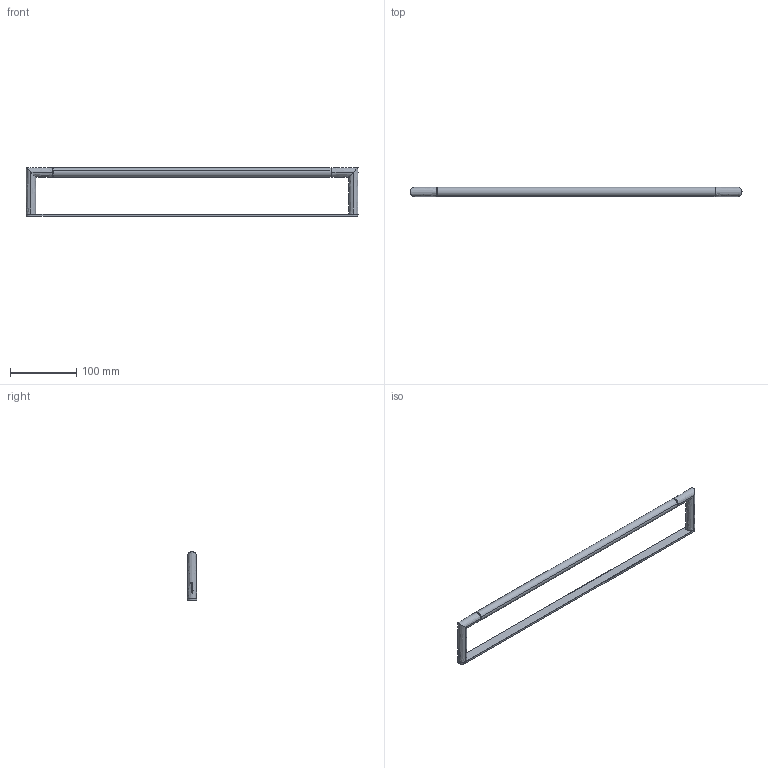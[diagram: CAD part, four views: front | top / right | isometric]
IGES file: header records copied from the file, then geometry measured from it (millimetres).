
Start section: SolidWorks IGES file using analytic representation for surfaces
Global section: file name: G:\Projects\New project\For Marketing\IGS\IGS\2015-12-11\471050002VW.IGS; native system: SolidWorks 2010; preprocessor: SolidWorks 2010; author: weijuan; date: 151210.120528; units: inch
Bounding box: 500.5 x 15 x 73 mm (x, y, z)
Surface area: 44984.1 mm2 (no closed solid volume)
Topology: 0 solids, 0 shells, 105 faces, 1535 edges, 1535 vertices
Faces by surface type: bspline 65, revolution 40
